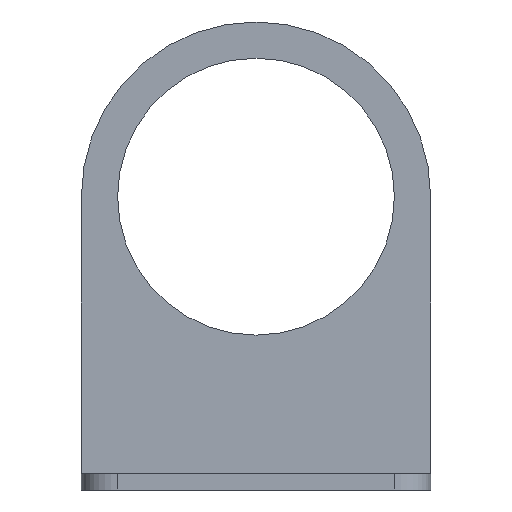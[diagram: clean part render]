
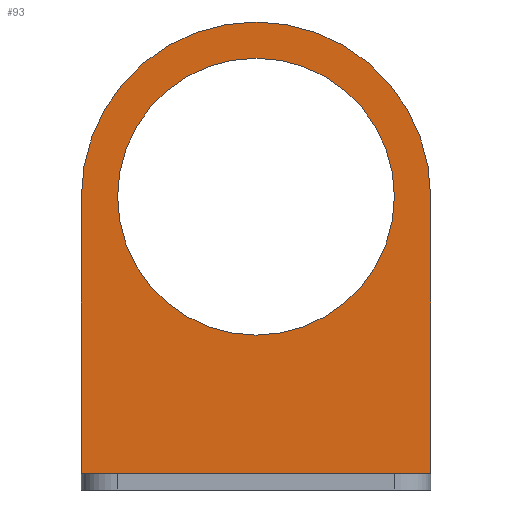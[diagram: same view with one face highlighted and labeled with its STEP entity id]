
A CAD part, left-side view. The second image highlights one B-rep face of the part: STEP entity #93.
In plain terms, the highlighted planar face has unit normal (-1, 0, 0).
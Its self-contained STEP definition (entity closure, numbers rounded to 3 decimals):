
#93 = ADVANCED_FACE( '', ( #137, #138 ), #139, .F. );
#137 = FACE_OUTER_BOUND( '', #182, .T. );
#138 = FACE_BOUND( '', #183, .T. );
#139 = PLANE( '', #184 );
#182 = EDGE_LOOP( '', ( #334, #335, #336, #337 ) );
#183 = EDGE_LOOP( '', ( #338 ) );
#184 = AXIS2_PLACEMENT_3D( '', #339, #340, #341 );
#334 = ORIENTED_EDGE( '', *, *, #362, .F. );
#335 = ORIENTED_EDGE( '', *, *, #348, .F. );
#336 = ORIENTED_EDGE( '', *, *, #390, .F. );
#337 = ORIENTED_EDGE( '', *, *, #385, .F. );
#338 = ORIENTED_EDGE( '', *, *, #391, .T. );
#339 = CARTESIAN_POINT( '', ( 22.5, 0., 44.5 ) );
#340 = DIRECTION( '', ( 1., 0., 0. ) );
#341 = DIRECTION( '', ( 0., 0., -1. ) );
#348 = EDGE_CURVE( '', #403, #405, #406, .T. );
#362 = EDGE_CURVE( '', #405, #430, #431, .T. );
#385 = EDGE_CURVE( '', #430, #465, #466, .T. );
#390 = EDGE_CURVE( '', #465, #403, #473, .T. );
#391 = EDGE_CURVE( '', #474, #474, #475, .T. );
#403 = VERTEX_POINT( '', #490 );
#405 = VERTEX_POINT( '', #493 );
#406 = LINE( '', #494, #495 );
#430 = VERTEX_POINT( '', #528 );
#431 = LINE( '', #529, #530 );
#465 = VERTEX_POINT( '', #580 );
#466 = LINE( '', #581, #582 );
#473 = CIRCLE( '', #591, 26.5 );
#474 = VERTEX_POINT( '', #592 );
#475 = CIRCLE( '', #593, 21. );
#490 = CARTESIAN_POINT( '', ( 22.5, -26.5, 44.5 ) );
#493 = CARTESIAN_POINT( '', ( 22.5, -26.5, 2.5 ) );
#494 = CARTESIAN_POINT( '', ( 22.5, -26.5, 44.5 ) );
#495 = VECTOR( '', #604, 1000. );
#528 = CARTESIAN_POINT( '', ( 22.5, 26.5, 2.5 ) );
#529 = CARTESIAN_POINT( '', ( 22.5, -21., 2.5 ) );
#530 = VECTOR( '', #626, 1000. );
#580 = CARTESIAN_POINT( '', ( 22.5, 26.5, 44.5 ) );
#581 = CARTESIAN_POINT( '', ( 22.5, 26.5, 0. ) );
#582 = VECTOR( '', #661, 1000. );
#591 = AXIS2_PLACEMENT_3D( '', #670, #671, #672 );
#592 = CARTESIAN_POINT( '', ( 22.5, 0., 23.5 ) );
#593 = AXIS2_PLACEMENT_3D( '', #673, #674, #675 );
#604 = DIRECTION( '', ( 0., 0., -1. ) );
#626 = DIRECTION( '', ( 0., 1., 0. ) );
#661 = DIRECTION( '', ( 0., 0., 1. ) );
#670 = CARTESIAN_POINT( '', ( 22.5, 0., 44.5 ) );
#671 = DIRECTION( '', ( 1., 0., 0. ) );
#672 = DIRECTION( '', ( 0., 0., -1. ) );
#673 = CARTESIAN_POINT( '', ( 22.5, 0., 44.5 ) );
#674 = DIRECTION( '', ( 1., 0., 0. ) );
#675 = DIRECTION( '', ( 0., 0., -1. ) );
